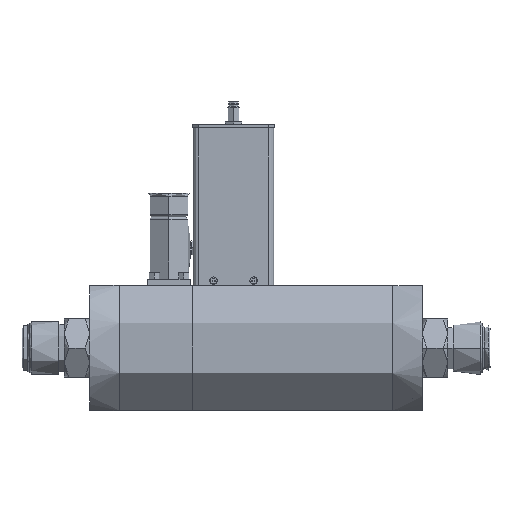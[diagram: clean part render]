
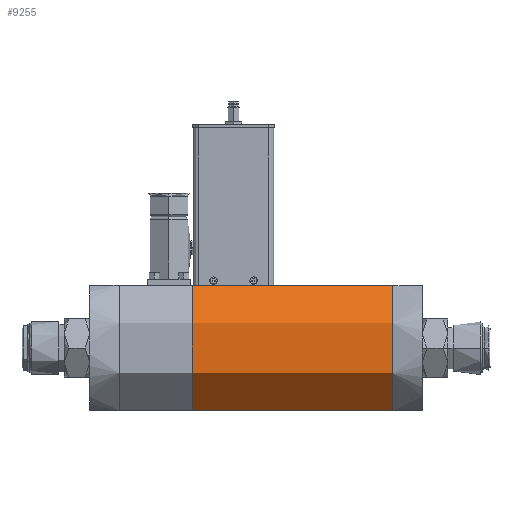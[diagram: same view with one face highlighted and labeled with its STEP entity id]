
A CAD part, left-side view. The second image highlights one B-rep face of the part: STEP entity #9255.
In plain terms, the highlighted cylindrical face has radius 42 mm (diameter 84 mm), a partial arc.
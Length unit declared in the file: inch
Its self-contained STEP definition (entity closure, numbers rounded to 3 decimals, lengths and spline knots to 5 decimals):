
#1306 = EDGE_LOOP ( 'NONE', ( #32637, #33736, #6136, #32665 ) ) ;
#1655 = CARTESIAN_POINT ( 'NONE',  ( -0.76007, 4.72441, 1.4685 ) ) ;
#2255 = CARTESIAN_POINT ( 'NONE',  ( -0.76007, 0., 1.4685 ) ) ;
#6136 = ORIENTED_EDGE ( 'NONE', *, *, #29819, .T. ) ;
#7711 = DIRECTION ( 'NONE',  ( 0., 1., 0. ) ) ;
#8521 = AXIS2_PLACEMENT_3D ( 'NONE', #28559, #12887, #31167 ) ;
#9255 = ADVANCED_FACE ( 'NONE', ( #25454 ), #25158, .T. ) ;
#11447 = AXIS2_PLACEMENT_3D ( 'NONE', #31721, #21242, #23871 ) ;
#12024 = CARTESIAN_POINT ( 'NONE',  ( -0.76007, 0., -1.4685 ) ) ;
#12887 = DIRECTION ( 'NONE',  ( 0., 1., 0. ) ) ;
#13279 = VECTOR ( 'NONE', #7711, 39.37008 ) ;
#13690 = DIRECTION ( 'NONE',  ( 0., -1., 0. ) ) ;
#14807 = VERTEX_POINT ( 'NONE', #33720 ) ;
#14916 = CIRCLE ( 'NONE', #8521, 1.65354 ) ;
#16192 = LINE ( 'NONE', #12024, #30058 ) ;
#16990 = CIRCLE ( 'NONE', #19572, 1.65354 ) ;
#17455 = VERTEX_POINT ( 'NONE', #21198 ) ;
#19572 = AXIS2_PLACEMENT_3D ( 'NONE', #29355, #13690, #31979 ) ;
#21198 = CARTESIAN_POINT ( 'NONE',  ( -0.76007, 0., 1.4685 ) ) ;
#21242 = DIRECTION ( 'NONE',  ( 0., 1., 0. ) ) ;
#21277 = VERTEX_POINT ( 'NONE', #1655 ) ;
#22093 = CARTESIAN_POINT ( 'NONE',  ( -0.76007, 4.72441, -1.4685 ) ) ;
#23871 = DIRECTION ( 'NONE',  ( 0., 0., 1. ) ) ;
#25158 = CYLINDRICAL_SURFACE ( 'NONE', #11447, 1.65354 ) ;
#25454 = FACE_OUTER_BOUND ( 'NONE', #1306, .T. ) ;
#27987 = LINE ( 'NONE', #2255, #13279 ) ;
#28559 = CARTESIAN_POINT ( 'NONE',  ( 0., 0., 0. ) ) ;
#29319 = EDGE_CURVE ( 'NONE', #30942, #14807, #16192, .T. ) ;
#29355 = CARTESIAN_POINT ( 'NONE',  ( 0., 4.72441, 0. ) ) ;
#29775 = EDGE_CURVE ( 'NONE', #14807, #17455, #14916, .T. ) ;
#29819 = EDGE_CURVE ( 'NONE', #17455, #21277, #27987, .T. ) ;
#30058 = VECTOR ( 'NONE', #30304, 39.37008 ) ;
#30304 = DIRECTION ( 'NONE',  ( 0., -1., 0. ) ) ;
#30863 = EDGE_CURVE ( 'NONE', #21277, #30942, #16990, .T. ) ;
#30942 = VERTEX_POINT ( 'NONE', #22093 ) ;
#31167 = DIRECTION ( 'NONE',  ( 0., 0., 1. ) ) ;
#31721 = CARTESIAN_POINT ( 'NONE',  ( 0., 0., 0. ) ) ;
#31979 = DIRECTION ( 'NONE',  ( 0., 0., 1. ) ) ;
#32637 = ORIENTED_EDGE ( 'NONE', *, *, #29319, .T. ) ;
#32665 = ORIENTED_EDGE ( 'NONE', *, *, #30863, .T. ) ;
#33720 = CARTESIAN_POINT ( 'NONE',  ( -0.76007, 0., -1.4685 ) ) ;
#33736 = ORIENTED_EDGE ( 'NONE', *, *, #29775, .T. ) ;
